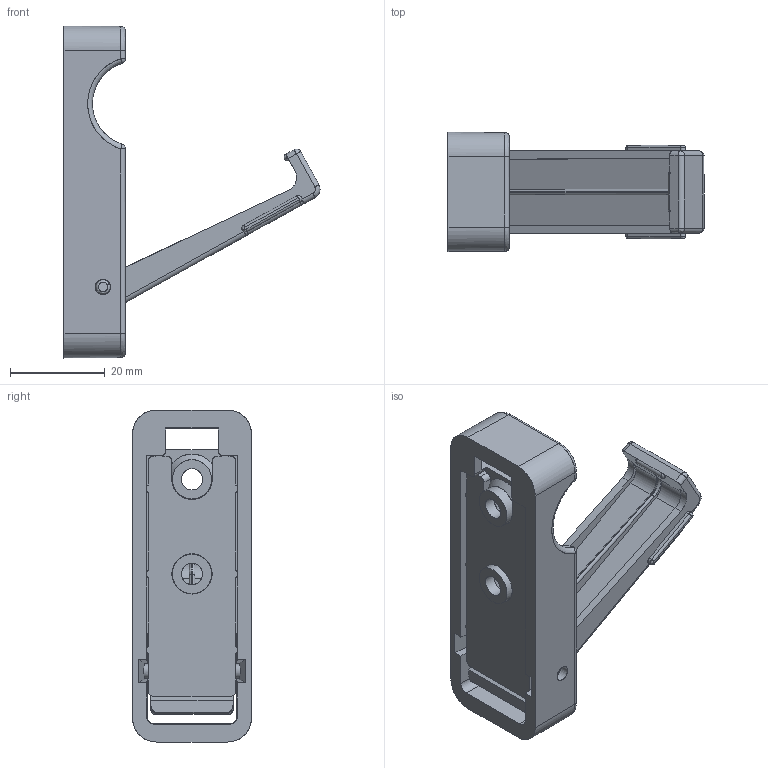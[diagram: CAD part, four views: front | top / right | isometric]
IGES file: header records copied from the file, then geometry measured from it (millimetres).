
Start section: C
Global section: file name: 8252-70.igs; native system: By Siemens PLM Incorporated; preprocessor: XPlus GENERIC/IGES 16.0.42; author: Author; organization: Title; date: 20231113.101345; units: millimetre
Bounding box: 54.15 x 25.23 x 70.23 mm (x, y, z)
Surface area: 12579.3 mm2 (no closed solid volume)
Topology: 0 solids, 0 shells, 268 faces, 1394 edges, 1390 vertices
Faces by surface type: bspline 268
